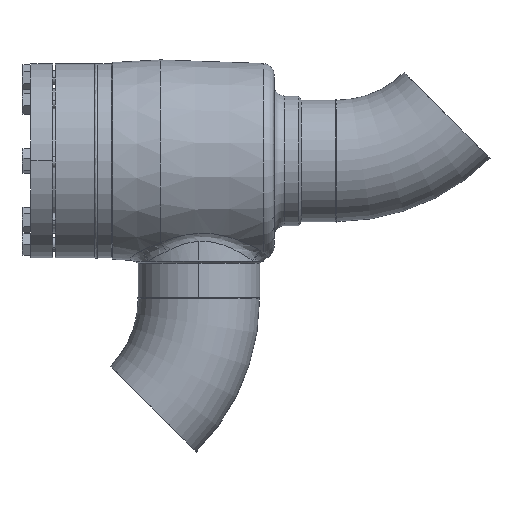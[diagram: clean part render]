
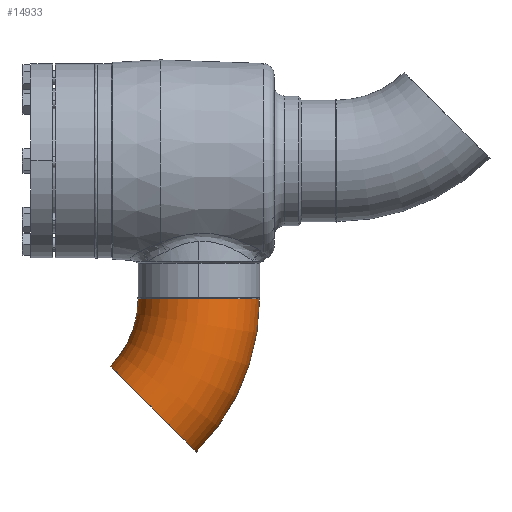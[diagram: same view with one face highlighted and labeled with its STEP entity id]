
A CAD part, left-side view. The second image highlights one B-rep face of the part: STEP entity #14933.
In plain terms, the highlighted toroidal (fillet/blend) face has major radius 114 mm and minor radius 44.45 mm.
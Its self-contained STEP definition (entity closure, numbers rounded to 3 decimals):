
#2195 = CARTESIAN_POINT ( 'NONE',  ( 49.179, -64.821, 0. ) ) ;
#2535 = CARTESIAN_POINT ( 'NONE',  ( 112.041, -1.959, 0. ) ) ;
#3470 = EDGE_CURVE ( 'NONE', #11632, #6261, #15208, .T. ) ;
#3781 = ORIENTED_EDGE ( 'NONE', *, *, #3470, .F. ) ;
#4122 = VERTEX_POINT ( 'NONE', #2535 ) ;
#6111 = CARTESIAN_POINT ( 'NONE',  ( 0., 44.45, 0. ) ) ;
#6261 = VERTEX_POINT ( 'NONE', #14731 ) ;
#6465 = EDGE_CURVE ( 'NONE', #14061, #6261, #14988, .T. ) ;
#6778 = ORIENTED_EDGE ( 'NONE', *, *, #6465, .T. ) ;
#7068 = EDGE_LOOP ( 'NONE', ( #7245, #11183, #6778, #3781 ) ) ;
#7245 = ORIENTED_EDGE ( 'NONE', *, *, #10228, .F. ) ;
#10228 = EDGE_CURVE ( 'NONE', #4122, #11632, #14145, .T. ) ;
#11045 = CIRCLE ( 'NONE', #11046, 158.45 ) ;
#11046 = AXIS2_PLACEMENT_3D ( 'NONE', #11047, #11048, #11049 ) ;
#11047 = CARTESIAN_POINT ( 'NONE',  ( 0., -114., 0. ) ) ;
#11048 = DIRECTION ( 'NONE',  ( 0., 0., 1. ) ) ;
#11049 = DIRECTION ( 'NONE',  ( 1., 0., 0. ) ) ;
#11183 = ORIENTED_EDGE ( 'NONE', *, *, #14269, .T. ) ;
#11632 = VERTEX_POINT ( 'NONE', #2195 ) ;
#14061 = VERTEX_POINT ( 'NONE', #6111 ) ;
#14145 = CIRCLE ( 'NONE', #14148, 44.45 ) ;
#14148 = AXIS2_PLACEMENT_3D ( 'NONE', #14149, #14150, #14151 ) ;
#14149 = CARTESIAN_POINT ( 'NONE',  ( 80.61, -33.39, 0. ) ) ;
#14150 = DIRECTION ( 'NONE',  ( 0.707, -0.707, 0. ) ) ;
#14151 = DIRECTION ( 'NONE',  ( 0., 0., -1. ) ) ;
#14269 = EDGE_CURVE ( 'NONE', #4122, #14061, #11045, .T. ) ;
#14478 = FACE_OUTER_BOUND ( 'NONE', #7068, .T. ) ;
#14479 = TOROIDAL_SURFACE ( 'NONE', #14480, 114., 44.45 ) ;
#14480 = AXIS2_PLACEMENT_3D ( 'NONE', #14481, #14482, #14483 ) ;
#14481 = CARTESIAN_POINT ( 'NONE',  ( 0., -114., 0. ) ) ;
#14482 = DIRECTION ( 'NONE',  ( 0., 0., 1. ) ) ;
#14483 = DIRECTION ( 'NONE',  ( 1., 0., 0. ) ) ;
#14731 = CARTESIAN_POINT ( 'NONE',  ( 0., -44.45, 0. ) ) ;
#14933 = ADVANCED_FACE ( 'NONE', ( #14478 ), #14479, .T. ) ;
#14988 = CIRCLE ( 'NONE', #14991, 44.45 ) ;
#14991 = AXIS2_PLACEMENT_3D ( 'NONE', #14992, #14993, #14994 ) ;
#14992 = CARTESIAN_POINT ( 'NONE',  ( 0., 0., 0. ) ) ;
#14993 = DIRECTION ( 'NONE',  ( 1., 0., 0. ) ) ;
#14994 = DIRECTION ( 'NONE',  ( 0., 0., -1. ) ) ;
#15208 = CIRCLE ( 'NONE', #15209, 69.55 ) ;
#15209 = AXIS2_PLACEMENT_3D ( 'NONE', #15210, #15211, #15212 ) ;
#15210 = CARTESIAN_POINT ( 'NONE',  ( 0., -114., 0. ) ) ;
#15211 = DIRECTION ( 'NONE',  ( 0., 0., 1. ) ) ;
#15212 = DIRECTION ( 'NONE',  ( 1., 0., 0. ) ) ;
